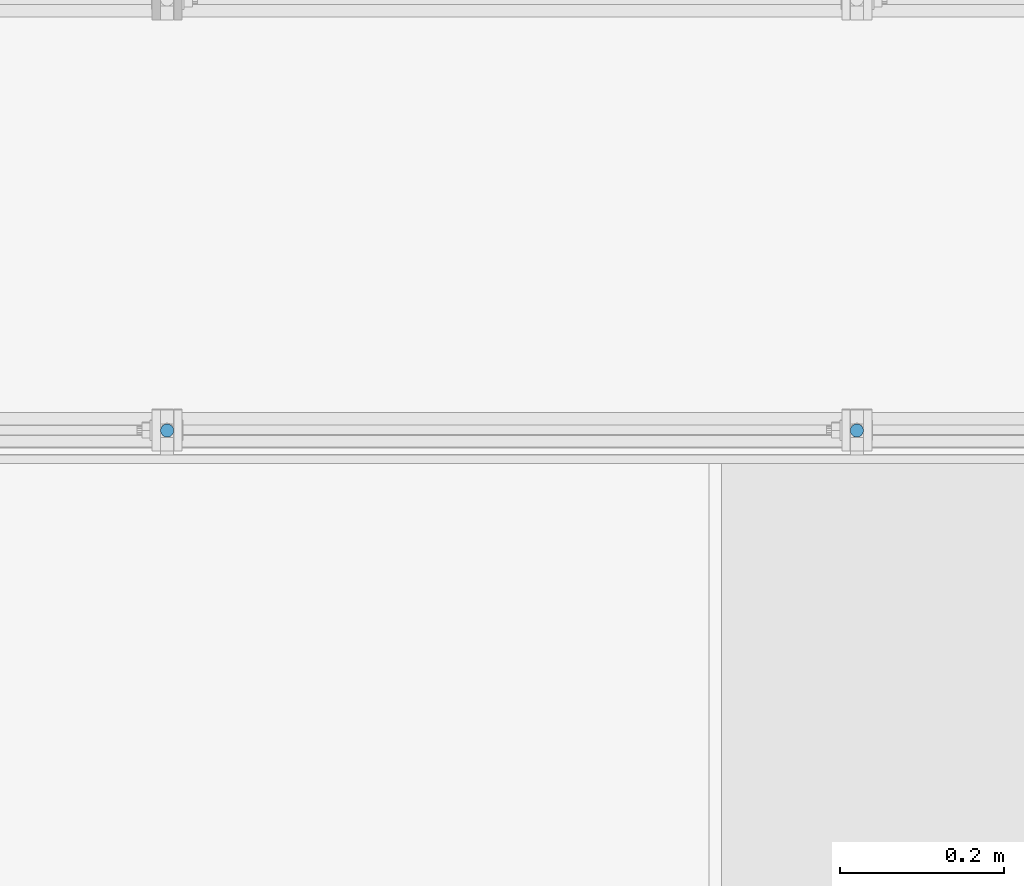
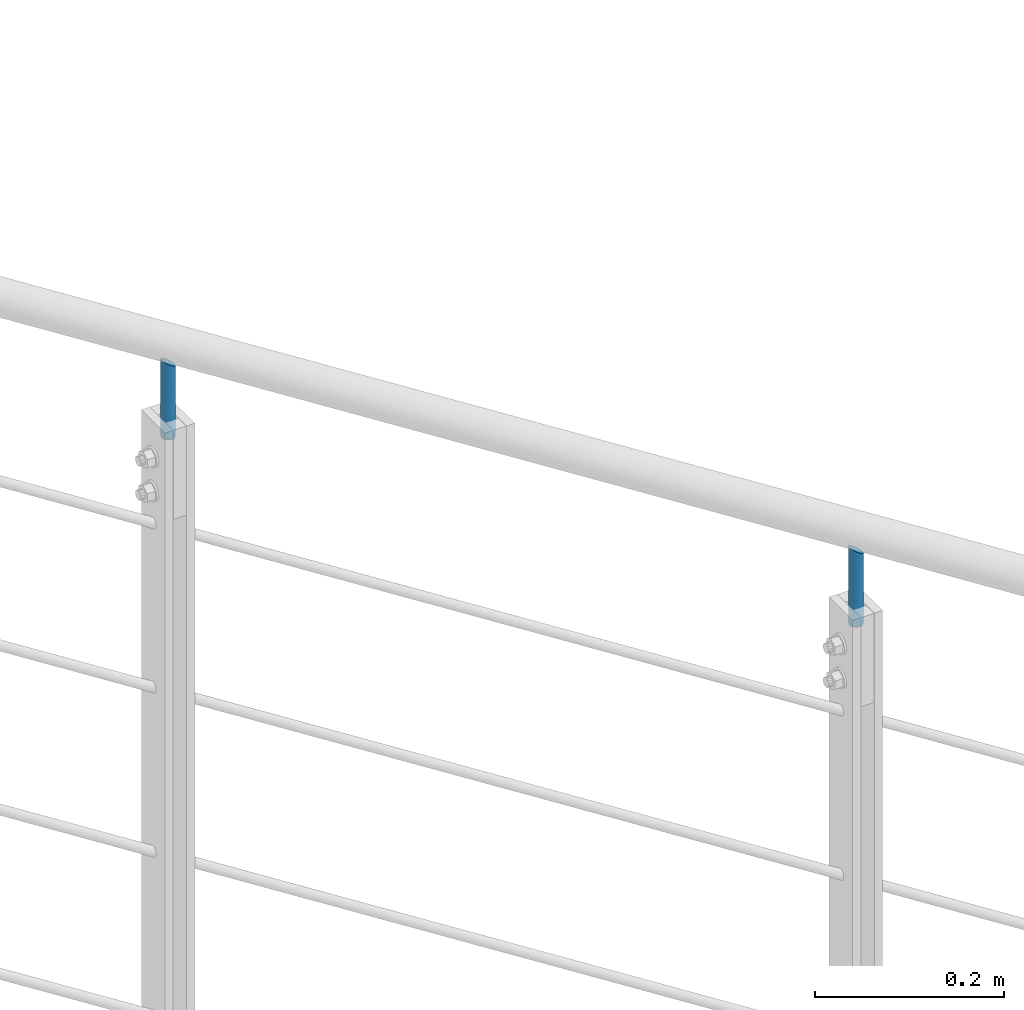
# One storey, part 5 of 98: 2 columns.
"""IFC2X3 building model written with IfcOpenShell, lengths in millimetres."""

from ifc_helpers import new_model, entity, si_unit, converted_unit, frame, origin, origin_with_axes, origin_2d, place, context, project, spatial, circle, extrude, clip, halfspace, material, element, save


model = new_model("IFC2X3")

# Units and contexts
model_context = context("Model", 3, precision=1e-09, world=origin_with_axes())
ifc_project = project(units=[si_unit("LENGTHUNIT", "METRE", prefix="MILLI"), si_unit("AREAUNIT", "SQUARE_METRE"), si_unit("VOLUMEUNIT", "CUBIC_METRE"), converted_unit("PLANEANGLEUNIT", "DEGREE", entity("IfcPlaneAngleMeasure", 0.01745329), si_unit("PLANEANGLEUNIT", "RADIAN"), dimensions=[0, 0, 0, 0, 0, 0, 0])], contexts=[model_context])

# Site, building, storey
site_placement = place(None, origin_with_axes())
site = spatial("IfcSite", under=ifc_project, at=site_placement, Name="Maybachstra?e 2, 71563 Affalterbach", CompositionType="ELEMENT")
building_placement = place(site_placement, origin_with_axes())
building = spatial("IfcBuilding", under=site, at=building_placement, Name="Struktur 1", CompositionType="ELEMENT")
storey_placement = place(building_placement, origin_with_axes())
storey = spatial("IfcBuildingStorey", under=building, at=storey_placement, Name="Default Storey", CompositionType="ELEMENT", Elevation=0.0)

# Columns
ifc_material = material(Name="1.4301")
column_1_placement = place(None, frame((8015.029157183, -570.0, 8571.539448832), z_axis=(0.0, 0.0, 1.0), x_axis=(-1.0, 0.0, 0.0)))
element("IfcColumn", 1, at=column_1_placement, inside=storey, material=ifc_material, Name="-", ObjectType="-", context=model_context, shape_type="Clipping", body=[
    clip(extrude(circle(Radius=8.0, at=origin_2d()), origin(), (0.0, 0.0, -1.0), 113.419634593), halfspace(frame((1818.708731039, -570.0, 1141.963559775), z_axis=(0.53780184, 0.0, -0.843071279), x_axis=(0.0, 1.0, 0.0)), True)),
])
column_2_placement = place(None, frame((8855.029157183, -570.0, 8035.696802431), z_axis=(0.0, 0.0, 1.0), x_axis=(-1.0, 0.0, 0.0)))
element("IfcColumn", 2, at=column_2_placement, inside=storey, material=ifc_material, Name="-", ObjectType="-", context=model_context, shape_type="Clipping", body=[
    clip(extrude(circle(Radius=8.0, at=origin_2d()), origin(), (0.0, 0.0, -1.0), 113.419634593), halfspace(frame((2658.708731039, -570.0, 1677.806206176), z_axis=(0.53780184, 0.0, -0.843071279), x_axis=(0.0, 1.0, 0.0)), True)),
])

save(model, "model.ifc")
